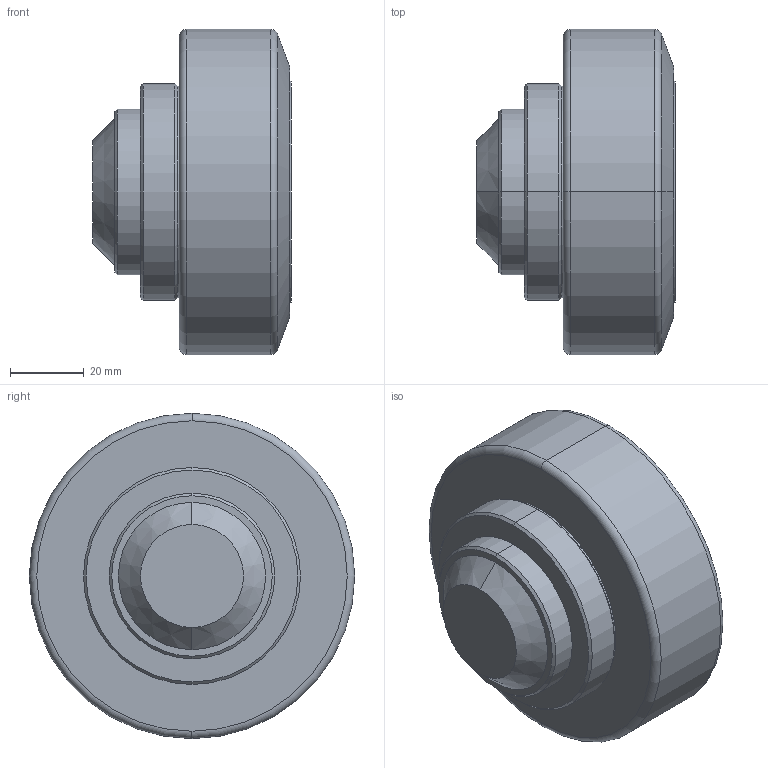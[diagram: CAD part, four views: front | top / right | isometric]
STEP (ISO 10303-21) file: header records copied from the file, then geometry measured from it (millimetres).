
FILE_DESCRIPTION (( 'STEP AP214' ), '1' );
FILE_NAME ('3D2.0448.STEP', '2013-12-17T04:55:33', ( 'usuario' ), ( 'Hewlett-Packard Company' ), 'SwSTEP 2.0', 'SolidWorks 2017', '' );
FILE_SCHEMA (( 'AUTOMOTIVE_DESIGN' ));
Length unit declared in the file: millimetre
Products named in the file (1): 3D2.0448
Bounding box: 54 x 88.4 x 88.4 mm (x, y, z)
Volume: 225530.6 mm3; surface area: 22678.6 mm2
Topology: 1 solids, 1 shells, 30 faces, 58 edges, 34 vertices
Faces by surface type: cone 12, cylinder 8, plane 6, torus 4
Entity records: 802 total; most frequent: DIRECTION 158, CARTESIAN_POINT 123, ORIENTED_EDGE 116, AXIS2_PLACEMENT_3D 69, EDGE_CURVE 58, CIRCLE 38, VERTEX_POINT 34, EDGE_LOOP 34
